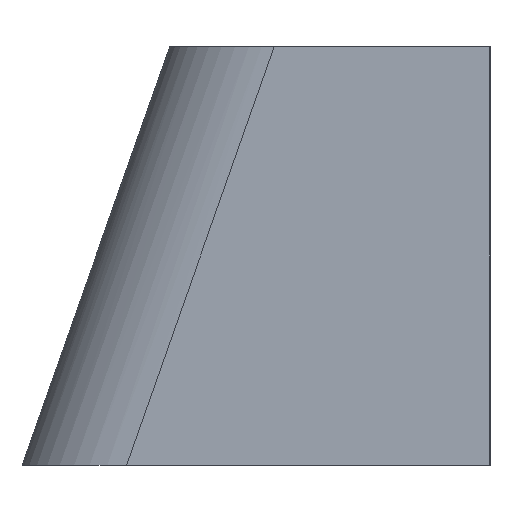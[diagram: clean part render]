
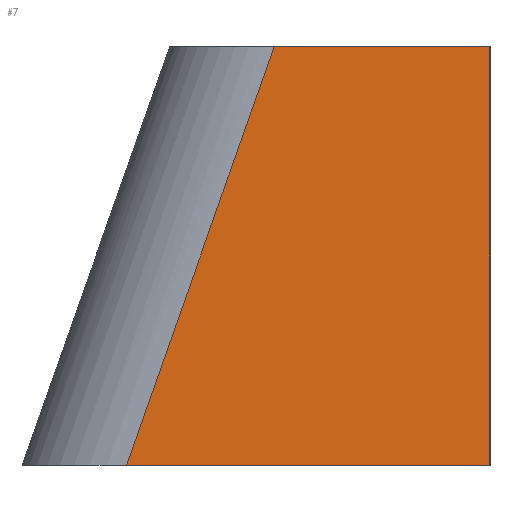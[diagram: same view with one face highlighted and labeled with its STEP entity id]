
A CAD part, left-side view. The second image highlights one B-rep face of the part: STEP entity #7.
In plain terms, the highlighted planar face has unit normal (-1, 0, 0).
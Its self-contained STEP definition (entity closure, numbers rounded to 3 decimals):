
#7 = ADVANCED_FACE ( 'NONE', ( #1526 ), #383, .F. ) ;
#25 = VECTOR ( 'NONE', #273, 1000. ) ;
#32 = EDGE_CURVE ( 'NONE', #1247, #1863, #559, .T. ) ;
#111 = VERTEX_POINT ( 'NONE', #532 ) ;
#273 = DIRECTION ( 'NONE',  ( 0., -1., 0. ) ) ;
#352 = CARTESIAN_POINT ( 'NONE',  ( 0., -10.242, 17. ) ) ;
#383 = PLANE ( 'NONE',  #600 ) ;
#408 = LINE ( 'NONE', #1549, #25 ) ;
#532 = CARTESIAN_POINT ( 'NONE',  ( 0., -19., 0. ) ) ;
#559 = LINE ( 'NONE', #2006, #1373 ) ;
#572 = EDGE_LOOP ( 'NONE', ( #1431, #986, #2031, #1648 ) ) ;
#600 = AXIS2_PLACEMENT_3D ( 'NONE', #1028, #1018, #895 ) ;
#678 = EDGE_CURVE ( 'NONE', #1247, #1148, #408, .T. ) ;
#767 = LINE ( 'NONE', #1403, #1112 ) ;
#820 = EDGE_CURVE ( 'NONE', #1863, #111, #767, .T. ) ;
#892 = CARTESIAN_POINT ( 'NONE',  ( 0., -19., 17. ) ) ;
#895 = DIRECTION ( 'NONE',  ( 0., 1., 0. ) ) ;
#914 = LINE ( 'NONE', #892, #1962 ) ;
#954 = CARTESIAN_POINT ( 'NONE',  ( 0., -19., 17. ) ) ;
#986 = ORIENTED_EDGE ( 'NONE', *, *, #32, .T. ) ;
#1018 = DIRECTION ( 'NONE',  ( 1., 0., 0. ) ) ;
#1028 = CARTESIAN_POINT ( 'NONE',  ( 0., 0., 17. ) ) ;
#1112 = VECTOR ( 'NONE', #1601, 1000. ) ;
#1148 = VERTEX_POINT ( 'NONE', #954 ) ;
#1247 = VERTEX_POINT ( 'NONE', #352 ) ;
#1373 = VECTOR ( 'NONE', #1535, 1000. ) ;
#1403 = CARTESIAN_POINT ( 'NONE',  ( 0., 0., 0. ) ) ;
#1431 = ORIENTED_EDGE ( 'NONE', *, *, #678, .F. ) ;
#1526 = FACE_OUTER_BOUND ( 'NONE', #572, .T. ) ;
#1535 = DIRECTION ( 'NONE',  ( 0., 0.333, -0.943 ) ) ;
#1549 = CARTESIAN_POINT ( 'NONE',  ( 0., 0., 17. ) ) ;
#1592 = CARTESIAN_POINT ( 'NONE',  ( 0., -4.242, 0. ) ) ;
#1601 = DIRECTION ( 'NONE',  ( 0., -1., 0. ) ) ;
#1648 = ORIENTED_EDGE ( 'NONE', *, *, #2073, .F. ) ;
#1863 = VERTEX_POINT ( 'NONE', #1592 ) ;
#1962 = VECTOR ( 'NONE', #2036, 1000. ) ;
#2006 = CARTESIAN_POINT ( 'NONE',  ( 0., -9.107, 13.786 ) ) ;
#2031 = ORIENTED_EDGE ( 'NONE', *, *, #820, .T. ) ;
#2036 = DIRECTION ( 'NONE',  ( 0., 0., -1. ) ) ;
#2073 = EDGE_CURVE ( 'NONE', #1148, #111, #914, .T. ) ;
